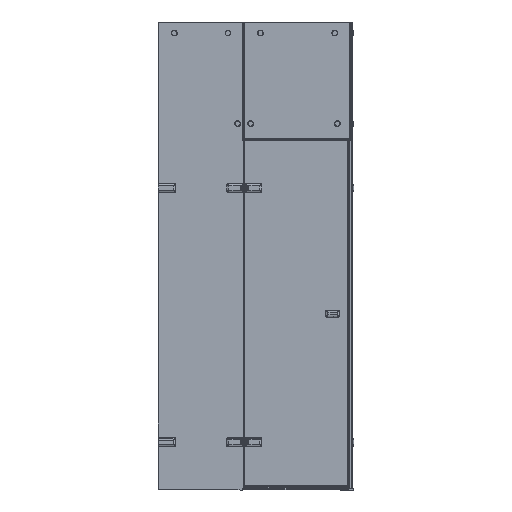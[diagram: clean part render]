
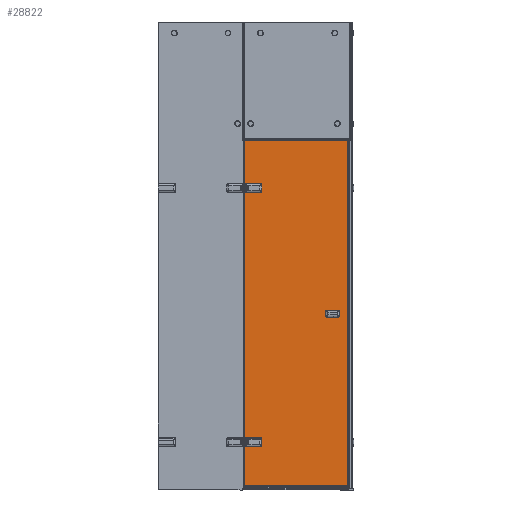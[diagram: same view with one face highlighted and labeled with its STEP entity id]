
A CAD part, front view. The second image highlights one B-rep face of the part: STEP entity #28822.
In plain terms, the highlighted planar face has unit normal (0, -1, 0).
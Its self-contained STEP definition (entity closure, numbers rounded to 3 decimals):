
#1713=PLANE($,#31135);
#3056=FACE_OUTER_BOUND($,#4816,.T.);
#4816=EDGE_LOOP($,(#22972,#22973,#22974,#22975,#22976,#22977,#22978,#22979,
#22980,#22981,#22982,#22983,#22984,#22985,#22986,#22987,#22988,#22989,#22990,
#22991));
#5832=CIRCLE($,#29969,5.);
#5835=CIRCLE($,#29973,5.);
#5874=CIRCLE($,#30051,5.);
#5876=CIRCLE($,#30055,5.);
#6006=CIRCLE($,#30408,5.);
#6009=CIRCLE($,#30412,5.);
#6048=CIRCLE($,#30490,5.);
#6050=CIRCLE($,#30494,5.);
#7087=LINE($,#56521,#9515);
#7091=LINE($,#56533,#9519);
#7095=LINE($,#56544,#9523);
#7584=LINE($,#58795,#10012);
#7588=LINE($,#58807,#10016);
#7592=LINE($,#58818,#10020);
#8089=LINE($,#62781,#10517);
#8155=LINE($,#63063,#10583);
#8157=LINE($,#63067,#10585);
#8158=LINE($,#63068,#10586);
#8159=LINE($,#63069,#10587);
#8160=LINE($,#63070,#10588);
#9515=VECTOR($,#33758,96.);
#9519=VECTOR($,#33770,42.);
#9523=VECTOR($,#33782,96.);
#10012=VECTOR($,#35133,96.);
#10016=VECTOR($,#35145,42.);
#10020=VECTOR($,#35157,96.);
#10517=VECTOR($,#36796,648.747);
#10583=VECTOR($,#36996,2179.049);
#10585=VECTOR($,#37000,257.43);
#10586=VECTOR($,#37001,648.747);
#10587=VECTOR($,#37002,276.48);
#10588=VECTOR($,#37003,1554.861);
#12015=VERTEX_POINT($,#56175);
#12016=VERTEX_POINT($,#56184);
#12019=VERTEX_POINT($,#56191);
#12022=VERTEX_POINT($,#56204);
#12133=VERTEX_POINT($,#56520);
#12135=VERTEX_POINT($,#56526);
#12137=VERTEX_POINT($,#56532);
#12139=VERTEX_POINT($,#56538);
#12512=VERTEX_POINT($,#58451);
#12513=VERTEX_POINT($,#58460);
#12516=VERTEX_POINT($,#58467);
#12519=VERTEX_POINT($,#58480);
#12629=VERTEX_POINT($,#58794);
#12631=VERTEX_POINT($,#58800);
#12633=VERTEX_POINT($,#58806);
#12635=VERTEX_POINT($,#58812);
#13162=VERTEX_POINT($,#62775);
#13163=VERTEX_POINT($,#62780);
#13249=VERTEX_POINT($,#63062);
#13250=VERTEX_POINT($,#63066);
#14789=EDGE_CURVE($,#12016,#12015,#5832,.T.);
#14796=EDGE_CURVE($,#12019,#12022,#5835,.T.);
#14954=EDGE_CURVE($,#12022,#12133,#7087,.T.);
#14957=EDGE_CURVE($,#12133,#12135,#5874,.T.);
#14960=EDGE_CURVE($,#12135,#12137,#7091,.T.);
#14963=EDGE_CURVE($,#12137,#12139,#5876,.T.);
#14966=EDGE_CURVE($,#12139,#12016,#7095,.T.);
#15538=EDGE_CURVE($,#12513,#12512,#6006,.T.);
#15545=EDGE_CURVE($,#12516,#12519,#6009,.T.);
#15702=EDGE_CURVE($,#12519,#12629,#7584,.T.);
#15705=EDGE_CURVE($,#12629,#12631,#6048,.T.);
#15708=EDGE_CURVE($,#12631,#12633,#7588,.T.);
#15711=EDGE_CURVE($,#12633,#12635,#6050,.T.);
#15714=EDGE_CURVE($,#12635,#12513,#7592,.T.);
#16547=EDGE_CURVE($,#13163,#13162,#8089,.T.);
#16662=EDGE_CURVE($,#13249,#13163,#8155,.T.);
#16664=EDGE_CURVE($,#12015,#13250,#8157,.T.);
#16665=EDGE_CURVE($,#13250,#13249,#8158,.T.);
#16666=EDGE_CURVE($,#13162,#12516,#8159,.T.);
#16667=EDGE_CURVE($,#12512,#12019,#8160,.T.);
#22972=ORIENTED_EDGE($,*,*,#14789,.T.);
#22973=ORIENTED_EDGE($,*,*,#16664,.T.);
#22974=ORIENTED_EDGE($,*,*,#16665,.T.);
#22975=ORIENTED_EDGE($,*,*,#16662,.T.);
#22976=ORIENTED_EDGE($,*,*,#16547,.T.);
#22977=ORIENTED_EDGE($,*,*,#16666,.T.);
#22978=ORIENTED_EDGE($,*,*,#15545,.T.);
#22979=ORIENTED_EDGE($,*,*,#15702,.T.);
#22980=ORIENTED_EDGE($,*,*,#15705,.T.);
#22981=ORIENTED_EDGE($,*,*,#15708,.T.);
#22982=ORIENTED_EDGE($,*,*,#15711,.T.);
#22983=ORIENTED_EDGE($,*,*,#15714,.T.);
#22984=ORIENTED_EDGE($,*,*,#15538,.T.);
#22985=ORIENTED_EDGE($,*,*,#16667,.T.);
#22986=ORIENTED_EDGE($,*,*,#14796,.T.);
#22987=ORIENTED_EDGE($,*,*,#14954,.T.);
#22988=ORIENTED_EDGE($,*,*,#14957,.T.);
#22989=ORIENTED_EDGE($,*,*,#14960,.T.);
#22990=ORIENTED_EDGE($,*,*,#14963,.T.);
#22991=ORIENTED_EDGE($,*,*,#14966,.T.);
#28822=ADVANCED_FACE($,(#3056),#1713,.T.);
#29969=AXIS2_PLACEMENT_3D($,#56185,#33478,#33479);
#29973=AXIS2_PLACEMENT_3D($,#56206,#33489,#33490);
#30051=AXIS2_PLACEMENT_3D($,#56527,#33763,#33764);
#30055=AXIS2_PLACEMENT_3D($,#56539,#33775,#33776);
#30408=AXIS2_PLACEMENT_3D($,#58461,#34854,#34855);
#30412=AXIS2_PLACEMENT_3D($,#58482,#34865,#34866);
#30490=AXIS2_PLACEMENT_3D($,#58801,#35138,#35139);
#30494=AXIS2_PLACEMENT_3D($,#58813,#35150,#35151);
#31135=AXIS2_PLACEMENT_3D($,#63065,#36998,#36999);
#33478=DIRECTION('center_axis',(0.,1.,0.));
#33479=DIRECTION('ref_axis',(1.,0.,0.));
#33489=DIRECTION('center_axis',(0.,1.,0.));
#33490=DIRECTION('ref_axis',(0.,0.,
-1.));
#33758=DIRECTION($,(1.,0.,0.));
#33763=DIRECTION('center_axis',(0.,1.,0.));
#33764=DIRECTION('ref_axis',(-1.,0.,0.));
#33770=DIRECTION($,(0.,0.,-1.));
#33775=DIRECTION('center_axis',(0.,1.,0.));
#33776=DIRECTION('ref_axis',(0.,0.,
1.));
#33782=DIRECTION($,(-1.,0.,0.));
#34854=DIRECTION('center_axis',(0.,1.,0.));
#34855=DIRECTION('ref_axis',(1.,0.,0.));
#34865=DIRECTION('center_axis',(0.,1.,0.));
#34866=DIRECTION('ref_axis',(0.,0.,
-1.));
#35133=DIRECTION($,(1.,0.,0.));
#35138=DIRECTION('center_axis',(0.,1.,0.));
#35139=DIRECTION('ref_axis',(-1.,0.,0.));
#35145=DIRECTION($,(0.,0.,-1.));
#35150=DIRECTION('center_axis',(0.,1.,0.));
#35151=DIRECTION('ref_axis',(0.,0.,
1.));
#35157=DIRECTION($,(-1.,0.,0.));
#36796=DIRECTION($,(-1.,0.,0.));
#36996=DIRECTION($,(0.,0.,1.));
#36998=DIRECTION('center_axis',(0.,-1.,0.));
#36999=DIRECTION('ref_axis',(1.,0.,0.));
#37000=DIRECTION($,(0.,0.,-1.));
#37001=DIRECTION($,(1.,0.,0.));
#37002=DIRECTION($,(0.,0.,-1.));
#37003=DIRECTION($,(0.,0.,-1.));
#56175=CARTESIAN_POINT('',(739.843,-78.044,-236.625));
#56184=CARTESIAN_POINT('',(744.59,-78.044,-240.056));
#56185=CARTESIAN_POINT('Origin',(744.59,-78.044,-235.056));
#56191=CARTESIAN_POINT('',(739.843,-78.044,-191.486));
#56204=CARTESIAN_POINT('',(744.59,-78.044,-188.056));
#56206=CARTESIAN_POINT('Origin',(744.59,-78.044,-193.056));
#56520=CARTESIAN_POINT('',(840.59,-78.044,-188.056));
#56521=CARTESIAN_POINT($,(789.59,-78.044,-188.056));
#56526=CARTESIAN_POINT('',(845.59,-78.044,-193.056));
#56527=CARTESIAN_POINT('Origin',(840.59,-78.044,-193.056));
#56532=CARTESIAN_POINT('',(845.59,-78.044,-235.056));
#56533=CARTESIAN_POINT($,(845.59,-78.044,-364.556));
#56538=CARTESIAN_POINT('',(840.59,-78.044,-240.056));
#56539=CARTESIAN_POINT('Origin',(840.59,-78.044,-235.056));
#56544=CARTESIAN_POINT($,(741.59,-78.044,-240.056));
#58451=CARTESIAN_POINT('',(739.843,-78.044,1363.375));
#58460=CARTESIAN_POINT('',(744.59,-78.044,1359.944));
#58461=CARTESIAN_POINT('Origin',(744.59,-78.044,1364.944));
#58467=CARTESIAN_POINT('',(739.843,-78.044,1408.514));
#58480=CARTESIAN_POINT('',(744.59,-78.044,1411.944));
#58482=CARTESIAN_POINT('Origin',(744.59,-78.044,1406.944));
#58794=CARTESIAN_POINT('',(840.59,-78.044,1411.944));
#58795=CARTESIAN_POINT($,(789.59,-78.044,1411.944));
#58800=CARTESIAN_POINT('',(845.59,-78.044,1406.944));
#58801=CARTESIAN_POINT('Origin',(840.59,-78.044,1406.944));
#58806=CARTESIAN_POINT('',(845.59,-78.044,1364.944));
#58807=CARTESIAN_POINT($,(845.59,-78.044,435.444));
#58812=CARTESIAN_POINT('',(840.59,-78.044,1359.944));
#58813=CARTESIAN_POINT('Origin',(840.59,-78.044,1364.944));
#58818=CARTESIAN_POINT($,(741.59,-78.044,1359.944));
#62775=CARTESIAN_POINT('',(739.843,-78.044,1684.994));
#62780=CARTESIAN_POINT('',(1388.59,-78.044,1684.994));
#62781=CARTESIAN_POINT($,(738.59,-78.044,1684.994));
#63062=CARTESIAN_POINT('',(1388.59,-78.044,-494.056));
#63063=CARTESIAN_POINT($,(1388.59,-78.044,-494.056));
#63065=CARTESIAN_POINT('Origin',(738.59,-78.044,-494.056));
#63066=CARTESIAN_POINT('',(739.843,-78.044,-494.056));
#63067=CARTESIAN_POINT($,(739.843,-78.044,-224.056));
#63068=CARTESIAN_POINT($,(738.59,-78.044,-494.056));
#63069=CARTESIAN_POINT($,(739.843,-78.044,1395.944));
#63070=CARTESIAN_POINT($,(739.843,-78.044,-204.056));
